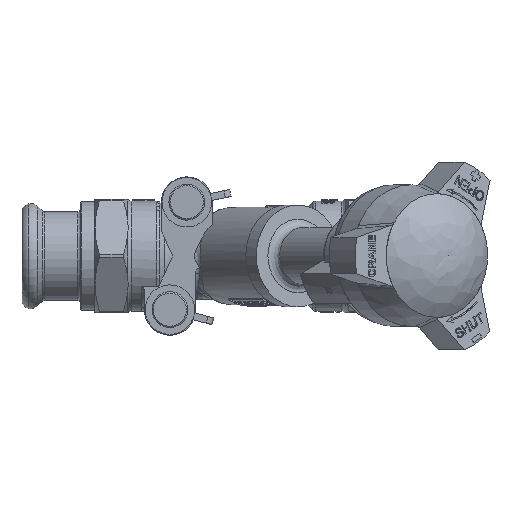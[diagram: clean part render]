
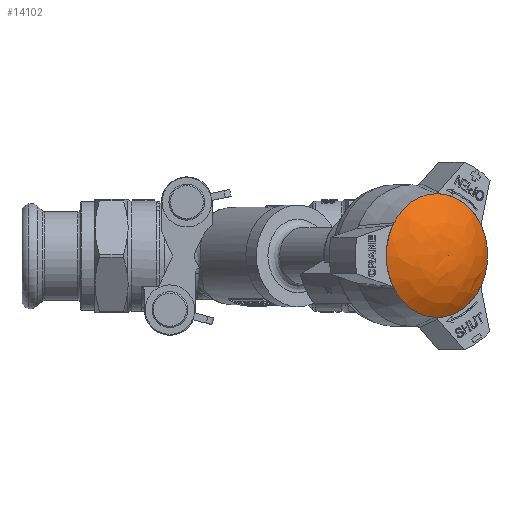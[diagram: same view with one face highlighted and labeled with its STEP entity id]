
A CAD part, top view. The second image highlights one B-rep face of the part: STEP entity #14102.
In plain terms, the highlighted free-form (B-spline) face has degree [2, 2] with [5, 9] control points.
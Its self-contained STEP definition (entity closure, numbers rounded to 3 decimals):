
#14013=CARTESIAN_POINT('',(20.981,21.883,107.019));
#14014=VERTEX_POINT('',#14013);
#14015=CARTESIAN_POINT('',(20.95,0.,107.04));
#14016=DIRECTION('',(0.574,0.,0.819));
#14017=DIRECTION('',(0.001,1.,-0.001));
#14018=AXIS2_PLACEMENT_3D('',#14015,#14016,#14017);
#14019=CIRCLE('',#14018,21.883);
#14020=EDGE_CURVE('',#14014,#14014,#14019,.T.);
#14046=CARTESIAN_POINT('',(35.832,-0.056,71.517));
#14047=CARTESIAN_POINT('',(42.108,-0.054,82.306));
#14048=CARTESIAN_POINT('',(38.907,-0.038,94.37));
#14049=CARTESIAN_POINT('',(35.707,-0.021,106.434));
#14050=CARTESIAN_POINT('',(24.908,0.,112.692));
#14051=CARTESIAN_POINT('',(35.787,-32.621,71.549));
#14052=CARTESIAN_POINT('',(42.064,-31.572,82.337));
#14053=CARTESIAN_POINT('',(38.877,-22.014,94.391));
#14054=CARTESIAN_POINT('',(35.689,-12.457,106.446));
#14055=CARTESIAN_POINT('',(24.908,0.,112.692));
#14056=CARTESIAN_POINT('',(9.111,-32.565,90.228));
#14057=CARTESIAN_POINT('',(16.246,-31.518,100.415));
#14058=CARTESIAN_POINT('',(20.874,-21.977,106.997));
#14059=CARTESIAN_POINT('',(25.503,-12.436,113.579));
#14060=CARTESIAN_POINT('',(24.908,0.,112.692));
#14061=CARTESIAN_POINT('',(-17.566,-32.51,108.907));
#14062=CARTESIAN_POINT('',(-9.573,-31.464,118.493));
#14063=CARTESIAN_POINT('',(2.872,-21.939,119.602));
#14064=CARTESIAN_POINT('',(15.316,-12.414,120.711));
#14065=CARTESIAN_POINT('',(24.908,0.,112.692));
#14066=CARTESIAN_POINT('',(-17.52,0.056,108.875));
#14067=CARTESIAN_POINT('',(-9.529,0.054,118.462));
#14068=CARTESIAN_POINT('',(2.903,0.038,119.581));
#14069=CARTESIAN_POINT('',(15.334,0.021,120.699));
#14070=CARTESIAN_POINT('',(24.908,0.,112.692));
#14071=CARTESIAN_POINT('',(-17.474,32.621,108.843));
#14072=CARTESIAN_POINT('',(-9.484,31.572,118.431));
#14073=CARTESIAN_POINT('',(2.933,22.014,119.559));
#14074=CARTESIAN_POINT('',(15.351,12.457,120.687));
#14075=CARTESIAN_POINT('',(24.908,0.,112.692));
#14076=CARTESIAN_POINT('',(9.202,32.565,90.164));
#14077=CARTESIAN_POINT('',(16.334,31.518,100.353));
#14078=CARTESIAN_POINT('',(20.936,21.977,106.954));
#14079=CARTESIAN_POINT('',(25.538,12.436,113.554));
#14080=CARTESIAN_POINT('',(24.908,0.,112.692));
#14081=CARTESIAN_POINT('',(35.878,32.51,71.486));
#14082=CARTESIAN_POINT('',(42.152,31.464,82.275));
#14083=CARTESIAN_POINT('',(38.938,21.939,94.348));
#14084=CARTESIAN_POINT('',(35.724,12.414,106.422));
#14085=CARTESIAN_POINT('',(24.908,0.,112.692));
#14086=CARTESIAN_POINT('',(35.832,-0.056,71.517));
#14087=CARTESIAN_POINT('',(42.108,-0.054,82.306));
#14088=CARTESIAN_POINT('',(38.907,-0.038,94.37));
#14089=CARTESIAN_POINT('',(35.707,-0.021,106.434));
#14090=CARTESIAN_POINT('',(24.908,0.,112.692));
#14098=(BOUNDED_SURFACE()B_SPLINE_SURFACE(2,2,((#14046,#14051,#14056,#14061,#14066,#14071,#14076,#14081,#14086),(#14047,#14052,#14057,#14062,#14067,#14072,#14077,#14082,#14087),(#14048,#14053,#14058,#14063,#14068,#14073,#14078,#14083,#14088),(#14049,#14054,#14059,#14064,#14069,#14074,#14079,#14084,#14089),(#14050,#14055,#14060,#14065,#14070,#14075,#14080,#14085,#14090)),.UNSPECIFIED.,.F.,.T.,.U.)B_SPLINE_SURFACE_WITH_KNOTS((3,2,3),(3,2,2,2,3),(0.084,0.87,1.656),(0.0,1.571,3.142,4.712,6.283),.UNSPECIFIED.)GEOMETRIC_REPRESENTATION_ITEM()RATIONAL_B_SPLINE_SURFACE(((1.0,0.707,1.0,0.707,1.0,0.707,1.0,0.707,1.0),(0.924,0.653,0.924,0.653,0.924,0.653,0.924,0.653,0.924),(1.0,0.707,1.0,0.707,1.0,0.707,1.0,0.707,1.0),(0.924,0.653,0.924,0.653,0.924,0.653,0.924,0.653,0.924),(1.0,0.707,1.0,0.707,1.0,0.707,1.0,0.707,1.0)))REPRESENTATION_ITEM('')SURFACE());
#14099=ORIENTED_EDGE('',*,*,#14020,.T.);
#14100=EDGE_LOOP('',(#14099));
#14101=FACE_OUTER_BOUND('',#14100,.T.);
#14102=ADVANCED_FACE('',(#14101),#14098,.T.);
